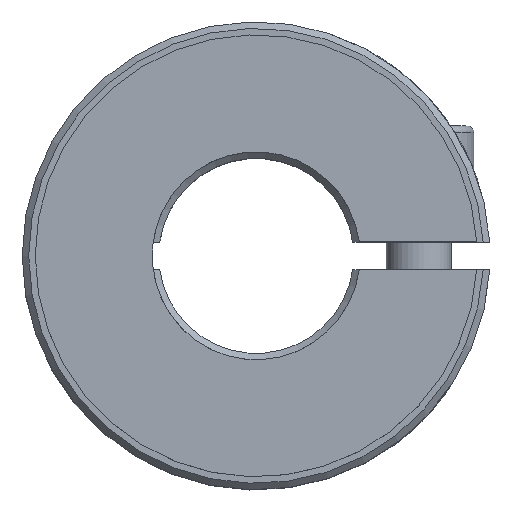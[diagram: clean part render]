
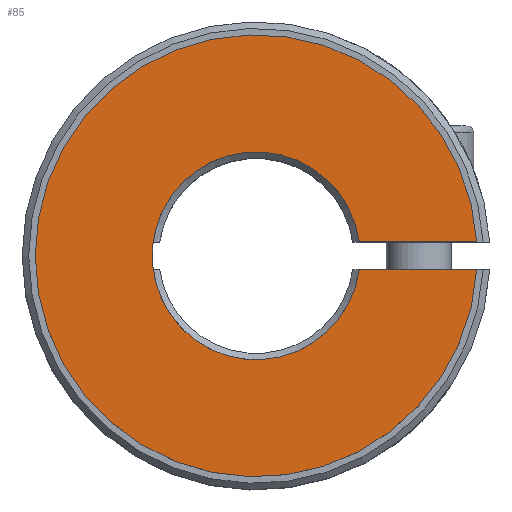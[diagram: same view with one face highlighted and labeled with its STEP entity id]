
A CAD part, top view. The second image highlights one B-rep face of the part: STEP entity #85.
In plain terms, the highlighted planar face has unit normal (0, 0, 1).
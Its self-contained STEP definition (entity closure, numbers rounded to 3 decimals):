
#85 = ADVANCED_FACE( '', ( #138 ), #139, .T. );
#138 = FACE_OUTER_BOUND( '', #232, .T. );
#139 = PLANE( '', #233 );
#232 = EDGE_LOOP( '', ( #384, #385, #386, #387 ) );
#233 = AXIS2_PLACEMENT_3D( '', #388, #389, #390 );
#384 = ORIENTED_EDGE( '', *, *, #632, .F. );
#385 = ORIENTED_EDGE( '', *, *, #638, .T. );
#386 = ORIENTED_EDGE( '', *, *, #634, .T. );
#387 = ORIENTED_EDGE( '', *, *, #639, .T. );
#388 = CARTESIAN_POINT( '', ( 0., 17., 8.5 ) );
#389 = DIRECTION( '', ( 0., 0., 1. ) );
#390 = DIRECTION( '', ( 1., 0., 0. ) );
#632 = EDGE_CURVE( '', #747, #749, #750, .T. );
#634 = EDGE_CURVE( '', #752, #753, #754, .T. );
#638 = EDGE_CURVE( '', #747, #752, #758, .T. );
#639 = EDGE_CURVE( '', #753, #749, #759, .T. );
#747 = VERTEX_POINT( '', #1008 );
#749 = VERTEX_POINT( '', #1011 );
#750 = CIRCLE( '', #1012, 17. );
#752 = VERTEX_POINT( '', #1015 );
#753 = VERTEX_POINT( '', #1016 );
#754 = CIRCLE( '', #1017, 8. );
#758 = LINE( '', #1023, #1024 );
#759 = LINE( '', #1025, #1026 );
#1008 = CARTESIAN_POINT( '', ( 16.966, -1.08, 8.5 ) );
#1011 = CARTESIAN_POINT( '', ( 16.966, 1.08, 8.5 ) );
#1012 = AXIS2_PLACEMENT_3D( '', #1228, #1229, #1230 );
#1015 = CARTESIAN_POINT( '', ( 7.927, -1.08, 8.5 ) );
#1016 = CARTESIAN_POINT( '', ( 7.927, 1.08, 8.5 ) );
#1017 = AXIS2_PLACEMENT_3D( '', #1232, #1233, #1234 );
#1023 = CARTESIAN_POINT( '', ( 0., -1.08, 8.5 ) );
#1024 = VECTOR( '', #1240, 1000. );
#1025 = CARTESIAN_POINT( '', ( 0., 1.08, 8.5 ) );
#1026 = VECTOR( '', #1241, 1000. );
#1228 = CARTESIAN_POINT( '', ( 0., 0., 8.5 ) );
#1229 = DIRECTION( '', ( 0., 0., -1. ) );
#1230 = DIRECTION( '', ( -1., 0., 0. ) );
#1232 = CARTESIAN_POINT( '', ( 0., 0., 8.5 ) );
#1233 = DIRECTION( '', ( 0., 0., -1. ) );
#1234 = DIRECTION( '', ( -1., 0., 0. ) );
#1240 = DIRECTION( '', ( -1., 0., 0. ) );
#1241 = DIRECTION( '', ( 1., 0., 0. ) );
